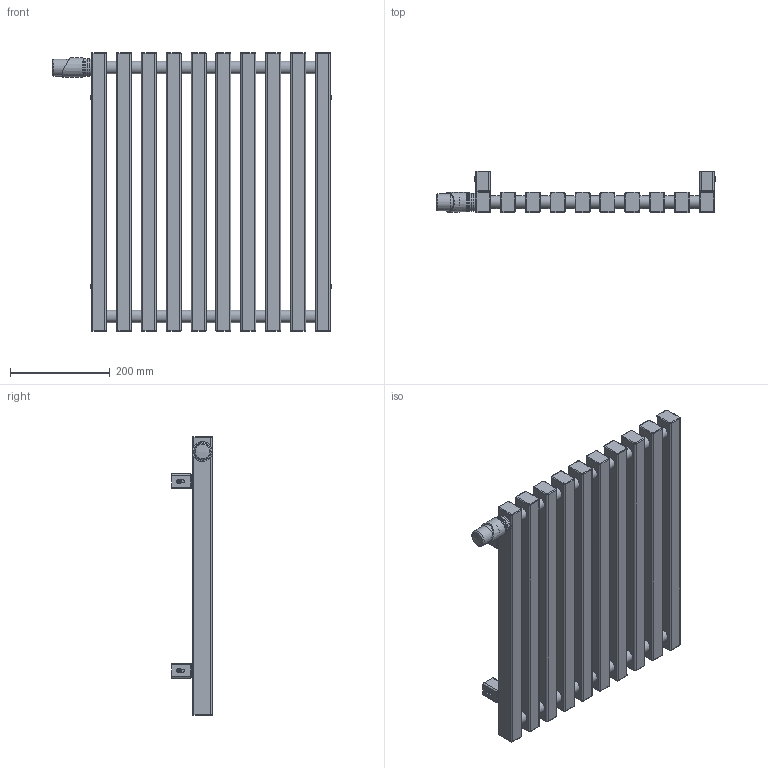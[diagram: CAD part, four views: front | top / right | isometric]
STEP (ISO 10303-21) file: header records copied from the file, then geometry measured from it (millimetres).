
FILE_DESCRIPTION((''),'2;1');
FILE_NAME('Z:\R\G\P\RGP029 - Grzejnik Triga ( ZET)\Work\Inventor\Triga v1.1\Marketing\AutoCad 3D\G-TR-XX-MK-XX-56-48-VL.stp','2012-07-26T13:16:28',('DawPi'),(''),'Autodesk Inventor 2012','Autodesk Inventor 2012','');
FILE_SCHEMA(('AUTOMOTIVE_DESIGN { 1 0 10303 214 1 1 1 1 }'));
Length unit declared in the file: millimetre
Products named in the file (4): G-TR-XX-MK-XX-56-48-VL; MMT42; A40300A
Assembly tree (6 placements, depth 2):
  G-TR-XX-MK-XX-56-48-VL
    G-TR-XX-MK-XX-56-48-VL
    MMT42  x4
    A40300A
Bounding box: 562.26 x 82 x 560 mm (x, y, z)
Volume: 7068309.6 mm3; surface area: 841570.8 mm2
Topology: 6 solids, 7 shells, 545 faces, 1206 edges, 735 vertices
Faces by surface type: cylinder 217, plane 207, bspline 81, cone 25, torus 14, sphere 1
Full cylindrical faces by diameter (mm): 4 x1, 4.134 x4, 4.509 x4, 5 x1, 10 x5, 11.445 x1, 12 x4, 18.631 x2, 25 x18, 26.211 x1, 28 x1, 30 x1, 31 x1, 33.8 x1, 34 x2, 35 x3, 36 x4, 38 x3
Entity records: 17132 total; most frequent: CARTESIAN_POINT 8266, DIRECTION 1950, ORIENTED_EDGE 1620, EDGE_CURVE 810, AXIS2_PLACEMENT_3D 805, EDGE_LOOP 544, VERTEX_POINT 520, CIRCLE 464
